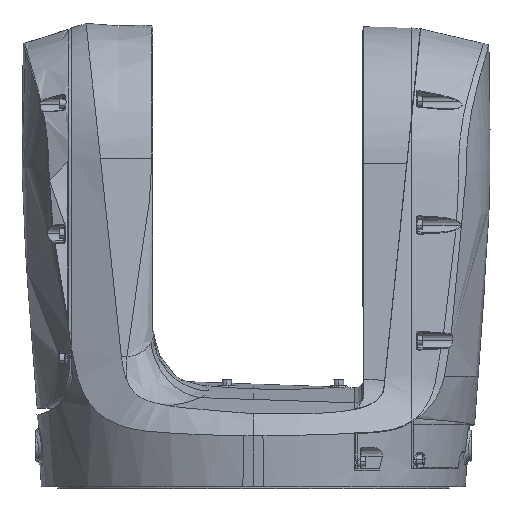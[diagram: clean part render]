
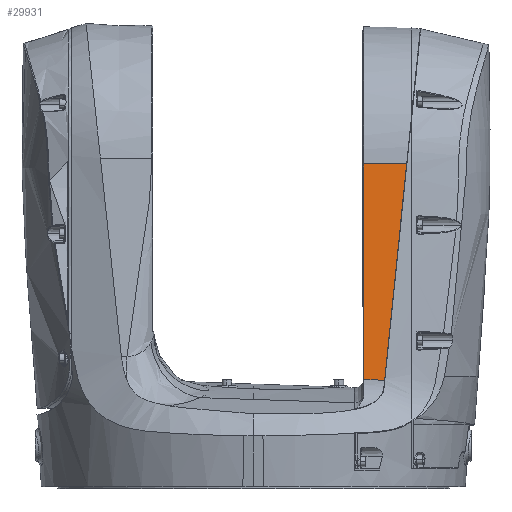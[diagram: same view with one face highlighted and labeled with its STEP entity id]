
A CAD part, left-side view. The second image highlights one B-rep face of the part: STEP entity #29931.
In plain terms, the highlighted planar face has unit normal (-0.999, -0.035, 0.035).
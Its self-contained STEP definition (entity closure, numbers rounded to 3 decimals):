
#1522 = CARTESIAN_POINT ( 'NONE',  ( -83.29, -75.069, 292.89 ) ) ;
#2473 = B_SPLINE_CURVE_WITH_KNOTS ( 'NONE', 3,
 ( #27514, #46284, #26889, #2779 ),
 .UNSPECIFIED., .F., .F.,
 ( 4, 4 ),
 ( 0., 1. ),
 .UNSPECIFIED. ) ;
#2666 = CARTESIAN_POINT ( 'NONE',  ( -84.652, -62., 266.952 ) ) ;
#2759 = VECTOR ( 'NONE', #39179, 1000. ) ;
#2779 = CARTESIAN_POINT ( 'NONE',  ( -80.203, -62., 394.377 ) ) ;
#2993 = ORIENTED_EDGE ( 'NONE', *, *, #32958, .F. ) ;
#3300 = DIRECTION ( 'NONE',  ( 0., -0.707, -0.707 ) ) ;
#3634 = CARTESIAN_POINT ( 'NONE',  ( -79.98, -61.994, 400.748 ) ) ;
#4890 = CARTESIAN_POINT ( 'NONE',  ( -84.176, -62.343, 280.245 ) ) ;
#5964 = CARTESIAN_POINT ( 'NONE',  ( -83.533, -74.435, 286.572 ) ) ;
#6587 = CARTESIAN_POINT ( 'NONE',  ( -81.053, -81.013, 351.006 ) ) ;
#7208 = LINE ( 'NONE', #41508, #51953 ) ;
#7523 = DIRECTION ( 'NONE',  ( 0.035, 0., 0.999 ) ) ;
#7849 = CARTESIAN_POINT ( 'NONE',  ( -82.22, -77.913, 320.684 ) ) ;
#8841 = EDGE_CURVE ( 'NONE', #34834, #35592, #2473, .T. ) ;
#8844 = CARTESIAN_POINT ( 'NONE',  ( -80.038, -61.995, 399.1 ) ) ;
#11022 = ORIENTED_EDGE ( 'NONE', *, *, #17219, .T. ) ;
#11533 = DIRECTION ( 'NONE',  ( -0.035, 0.999, 0.001 ) ) ;
#12616 = CARTESIAN_POINT ( 'NONE',  ( -82.804, -76.362, 305.524 ) ) ;
#13905 = CARTESIAN_POINT ( 'NONE',  ( -83.787, -73.779, 279.936 ) ) ;
#14115 = CARTESIAN_POINT ( 'NONE',  ( -83.775, -73.811, 280.253 ) ) ;
#14215 = VERTEX_POINT ( 'NONE', #36922 ) ;
#15798 = ORIENTED_EDGE ( 'NONE', *, *, #34616, .T. ) ;
#17219 = EDGE_CURVE ( 'NONE', #19754, #34834, #45977, .T. ) ;
#17683 = CARTESIAN_POINT ( 'NONE',  ( -79.205, -85.919, 399.014 ) ) ;
#19618 = CARTESIAN_POINT ( 'NONE',  ( -83.678, -74.065, 282.78 ) ) ;
#19754 = VERTEX_POINT ( 'NONE', #30010 ) ;
#20583 = EDGE_CURVE ( 'NONE', #14215, #19754, #59194, .T. ) ;
#20867 = CARTESIAN_POINT ( 'NONE',  ( -82.998, -75.844, 300.47 ) ) ;
#21831 = CARTESIAN_POINT ( 'NONE',  ( -79.886, -84.112, 381.327 ) ) ;
#22456 = CARTESIAN_POINT ( 'NONE',  ( -79.229, -85.856, 398.383 ) ) ;
#24873 = LINE ( 'NONE', #4890, #2759 ) ;
#25317 = CARTESIAN_POINT ( 'NONE',  ( -83.387, -74.813, 290.363 ) ) ;
#25952 = CARTESIAN_POINT ( 'NONE',  ( -80.08, -83.595, 376.273 ) ) ;
#26592 = CARTESIAN_POINT ( 'NONE',  ( -80.664, -82.045, 361.113 ) ) ;
#26781 = FACE_OUTER_BOUND ( 'NONE', #27425, .T. ) ;
#26889 = CARTESIAN_POINT ( 'NONE',  ( -80.148, -62., 395.951 ) ) ;
#26905 = ORIENTED_EDGE ( 'NONE', *, *, #50559, .T. ) ;
#27193 = VERTEX_POINT ( 'NONE', #38128 ) ;
#27425 = EDGE_LOOP ( 'NONE', ( #15798, #42801, #36191, #11022, #48272, #2993, #26905 ) ) ;
#27455 = VECTOR ( 'NONE', #11533, 1000. ) ;
#27514 = CARTESIAN_POINT ( 'NONE',  ( -80.038, -61.995, 399.1 ) ) ;
#29237 = VERTEX_POINT ( 'NONE', #41565 ) ;
#29931 = ADVANCED_FACE ( 'NONE', ( #26781 ), #46174, .F. ) ;
#30010 = CARTESIAN_POINT ( 'NONE',  ( -79.951, -61.994, 401.572 ) ) ;
#30076 = CARTESIAN_POINT ( 'NONE',  ( -83.775, -73.811, 280.253 ) ) ;
#31212 = CARTESIAN_POINT ( 'NONE',  ( -79.951, -62., 401.572 ) ) ;
#31339 = CARTESIAN_POINT ( 'NONE',  ( -79.351, -85.535, 395.224 ) ) ;
#31583 = B_SPLINE_CURVE_WITH_KNOTS ( 'NONE', 3,
 ( #13905, #62191, #51420, #32673 ),
 .UNSPECIFIED., .F., .F.,
 ( 4, 4 ),
 ( 0., 0. ),
 .UNSPECIFIED. ) ;
#32673 = CARTESIAN_POINT ( 'NONE',  ( -83.775, -73.811, 280.253 ) ) ;
#32958 = EDGE_CURVE ( 'NONE', #29237, #35592, #7208, .T. ) ;
#34616 = EDGE_CURVE ( 'NONE', #27193, #40580, #31583, .T. ) ;
#34834 = VERTEX_POINT ( 'NONE', #8844 ) ;
#35592 = VERTEX_POINT ( 'NONE', #48143 ) ;
#35939 = EDGE_CURVE ( 'NONE', #40580, #14215, #58795, .T. ) ;
#36191 = ORIENTED_EDGE ( 'NONE', *, *, #20583, .T. ) ;
#36661 = CARTESIAN_POINT ( 'NONE',  ( -79.951, -61.994, 401.572 ) ) ;
#36922 = CARTESIAN_POINT ( 'NONE',  ( -79.108, -86.164, 401.543 ) ) ;
#37263 = DIRECTION ( 'NONE',  ( 0.999, 0.035, -0.035 ) ) ;
#38128 = CARTESIAN_POINT ( 'NONE',  ( -83.787, -73.779, 279.936 ) ) ;
#39179 = DIRECTION ( 'NONE',  ( 0.034, -0.999, -0.027 ) ) ;
#40260 = CARTESIAN_POINT ( 'NONE',  ( -83.726, -73.943, 281.516 ) ) ;
#40580 = VERTEX_POINT ( 'NONE', #14115 ) ;
#41213 = CARTESIAN_POINT ( 'NONE',  ( -79.594, -84.888, 388.907 ) ) ;
#41508 = CARTESIAN_POINT ( 'NONE',  ( -84.652, -62., 266.952 ) ) ;
#41565 = CARTESIAN_POINT ( 'NONE',  ( -84.188, -62., 280.255 ) ) ;
#41844 = CARTESIAN_POINT ( 'NONE',  ( -79.108, -86.164, 401.543 ) ) ;
#42801 = ORIENTED_EDGE ( 'NONE', *, *, #35939, .T. ) ;
#45664 = CARTESIAN_POINT ( 'NONE',  ( -79.156, -86.044, 400.278 ) ) ;
#45977 = B_SPLINE_CURVE_WITH_KNOTS ( 'NONE', 3,
 ( #36661, #3634, #61428, #51273 ),
 .UNSPECIFIED., .F., .F.,
 ( 4, 4 ),
 ( 0., 0.002 ),
 .UNSPECIFIED. ) ;
#46174 = PLANE ( 'NONE',  #50912 ) ;
#46284 = CARTESIAN_POINT ( 'NONE',  ( -80.093, -61.997, 397.526 ) ) ;
#46603 = CARTESIAN_POINT ( 'NONE',  ( -79.132, -86.106, 400.91 ) ) ;
#48143 = CARTESIAN_POINT ( 'NONE',  ( -80.203, -62., 394.377 ) ) ;
#48272 = ORIENTED_EDGE ( 'NONE', *, *, #8841, .T. ) ;
#49472 = CARTESIAN_POINT ( 'NONE',  ( -83.581, -74.311, 285.308 ) ) ;
#50559 = EDGE_CURVE ( 'NONE', #29237, #27193, #24873, .T. ) ;
#50731 = CARTESIAN_POINT ( 'NONE',  ( -81.831, -78.947, 330.791 ) ) ;
#50912 = AXIS2_PLACEMENT_3D ( 'NONE', #2666, #37263, #3300 ) ;
#51055 = CARTESIAN_POINT ( 'NONE',  ( -79.302, -85.665, 396.487 ) ) ;
#51273 = CARTESIAN_POINT ( 'NONE',  ( -80.038, -61.995, 399.1 ) ) ;
#51420 = CARTESIAN_POINT ( 'NONE',  ( -83.779, -73.8, 280.147 ) ) ;
#51953 = VECTOR ( 'NONE', #7523, 1000. ) ;
#54865 = CARTESIAN_POINT ( 'NONE',  ( -79.497, -85.147, 391.434 ) ) ;
#58795 = B_SPLINE_CURVE_WITH_KNOTS ( 'NONE', 3,
 ( #30076, #40260, #19618, #49472, #5964, #25317, #1522, #20867, #12616, #7849, #50731, #6587, #26592, #25952, #21831, #41213, #54865, #31339, #51055, #22456, #17683, #45664, #46603, #41844 ),
 .UNSPECIFIED., .F., .F.,
 ( 4, 2, 2, 2, 2, 2, 2, 2, 2, 2, 2, 4 ),
 ( 0., 0.004, 0.008, 0.015, 0.031, 0.061, 0.092, 0.107, 0.114, 0.118, 0.12, 0.122 ),
 .UNSPECIFIED. ) ;
#59194 = LINE ( 'NONE', #31212, #27455 ) ;
#61428 = CARTESIAN_POINT ( 'NONE',  ( -80.009, -61.995, 399.924 ) ) ;
#62191 = CARTESIAN_POINT ( 'NONE',  ( -83.783, -73.788, 280.042 ) ) ;
